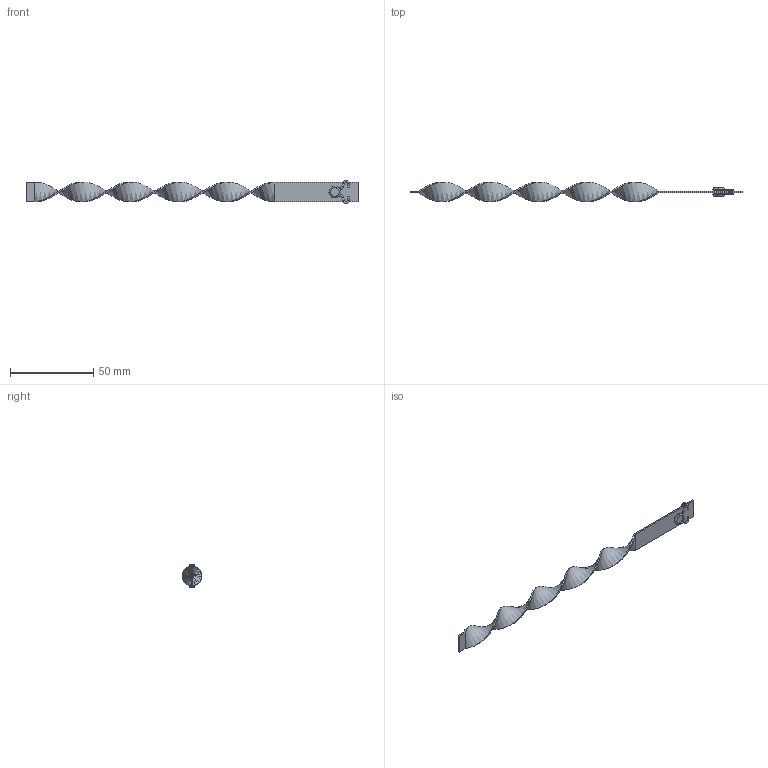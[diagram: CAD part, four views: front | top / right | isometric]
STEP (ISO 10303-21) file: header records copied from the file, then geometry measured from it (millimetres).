
FILE_DESCRIPTION (( 'STEP AP203' ), '1' );
FILE_NAME ('RLAS-12x200.STEP', '2016-02-11T16:21:49', ( 'Balzi' ), ( '' ), 'SwSTEP 2.0', 'SolidWorks 2015', '' );
FILE_SCHEMA (( 'CONFIG_CONTROL_DESIGN' ));
Length unit declared in the file: millimetre
Products named in the file (1): RLAS-12x200
Bounding box: 200 x 11.89 x 13.99 mm (x, y, z)
Volume: 2483.4 mm3; surface area: 5781 mm2
Topology: 5 solids, 5 shells, 92 faces, 178 edges, 96 vertices
Faces by surface type: torus 40, cylinder 30, plane 18, bspline 4
Entity records: 4051 total; most frequent: CARTESIAN_POINT 2063, DIRECTION 468, ORIENTED_EDGE 356, AXIS2_PLACEMENT_3D 209, EDGE_CURVE 178, CIRCLE 120, VERTEX_POINT 96, EDGE_LOOP 94
